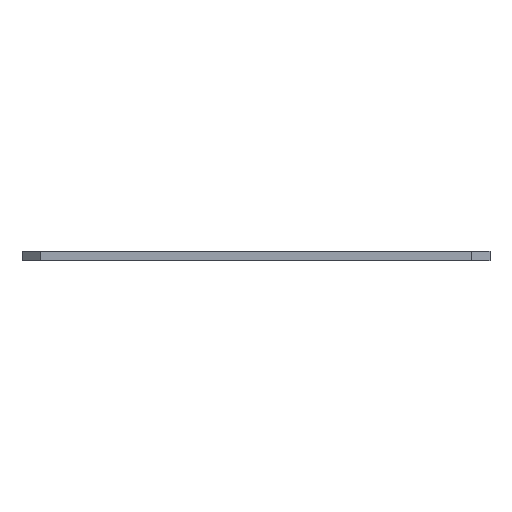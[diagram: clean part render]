
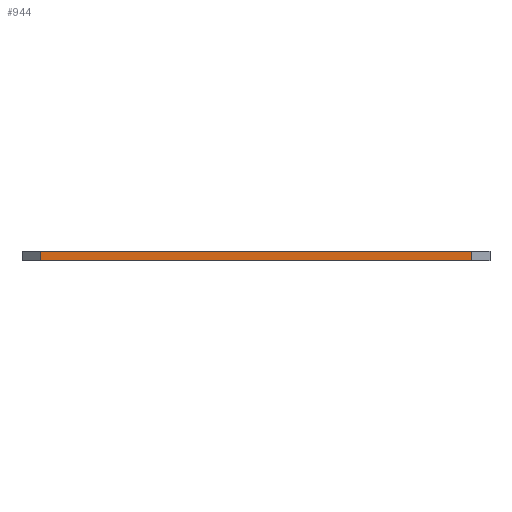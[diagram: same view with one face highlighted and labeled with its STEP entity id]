
A CAD part, front view. The second image highlights one B-rep face of the part: STEP entity #944.
In plain terms, the highlighted planar face has unit normal (0, -1, 0).
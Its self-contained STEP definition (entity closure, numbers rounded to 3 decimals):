
#908 = EDGE_CURVE ( 'NONE', #4266, #4259, #3121, .T. ) ;
#912 = EDGE_CURVE ( 'NONE', #4133, #4266, #3109, .T. ) ;
#913 = EDGE_CURVE ( 'NONE', #4259, #4134, #3106, .T. ) ;
#944 = ADVANCED_FACE ( 'NONE', ( #3640 ), #3012, .F. ) ;
#1032 = EDGE_CURVE ( 'NONE', #4133, #4134, #2711, .T. ) ;
#2709 = DIRECTION ( 'NONE',  ( 1., 0., 0. ) ) ;
#2710 = CARTESIAN_POINT ( 'NONE',  ( -51.5, -26.5, 2. ) ) ;
#2711 = LINE ( 'NONE', #2710, #3333 ) ;
#3009 = DIRECTION ( 'NONE',  ( 0., 0., 1. ) ) ;
#3010 = DIRECTION ( 'NONE',  ( 0., 1., 0. ) ) ;
#3011 = CARTESIAN_POINT ( 'NONE',  ( -51.5, -26.5, 2. ) ) ;
#3012 = PLANE ( 'NONE',  #3642 ) ;
#3104 = DIRECTION ( 'NONE',  ( 0., 0., 1. ) ) ;
#3105 = CARTESIAN_POINT ( 'NONE',  ( 47.5, -26.5, 2. ) ) ;
#3106 = LINE ( 'NONE', #3105, #3509 ) ;
#3107 = DIRECTION ( 'NONE',  ( 0., 0., -1. ) ) ;
#3108 = CARTESIAN_POINT ( 'NONE',  ( -47.5, -26.5, 2. ) ) ;
#3109 = LINE ( 'NONE', #3108, #3367 ) ;
#3119 = DIRECTION ( 'NONE',  ( 1., 0., 0. ) ) ;
#3120 = CARTESIAN_POINT ( 'NONE',  ( -51.5, -26.5, 0. ) ) ;
#3121 = LINE ( 'NONE', #3120, #3595 ) ;
#3333 = VECTOR ( 'NONE', #2709, 1000. ) ;
#3367 = VECTOR ( 'NONE', #3107, 1000. ) ;
#3509 = VECTOR ( 'NONE', #3104, 1000. ) ;
#3595 = VECTOR ( 'NONE', #3119, 1000. ) ;
#3640 = FACE_OUTER_BOUND ( 'NONE', #4279, .T. ) ;
#3642 = AXIS2_PLACEMENT_3D ( 'NONE', #3011, #3010, #3009 ) ;
#4133 = VERTEX_POINT ( 'NONE', #7078 ) ;
#4134 = VERTEX_POINT ( 'NONE', #7077 ) ;
#4259 = VERTEX_POINT ( 'NONE', #6905 ) ;
#4266 = VERTEX_POINT ( 'NONE', #6895 ) ;
#4279 = EDGE_LOOP ( 'NONE', ( #4948, #4950, #4949, #4951 ) ) ;
#4948 = ORIENTED_EDGE ( 'NONE', *, *, #1032, .F. ) ;
#4949 = ORIENTED_EDGE ( 'NONE', *, *, #908, .T. ) ;
#4950 = ORIENTED_EDGE ( 'NONE', *, *, #912, .T. ) ;
#4951 = ORIENTED_EDGE ( 'NONE', *, *, #913, .T. ) ;
#6895 = CARTESIAN_POINT ( 'NONE',  ( -47.5, -26.5, 0. ) ) ;
#6905 = CARTESIAN_POINT ( 'NONE',  ( 47.5, -26.5, 0. ) ) ;
#7077 = CARTESIAN_POINT ( 'NONE',  ( 47.5, -26.5, 2. ) ) ;
#7078 = CARTESIAN_POINT ( 'NONE',  ( -47.5, -26.5, 2. ) ) ;
